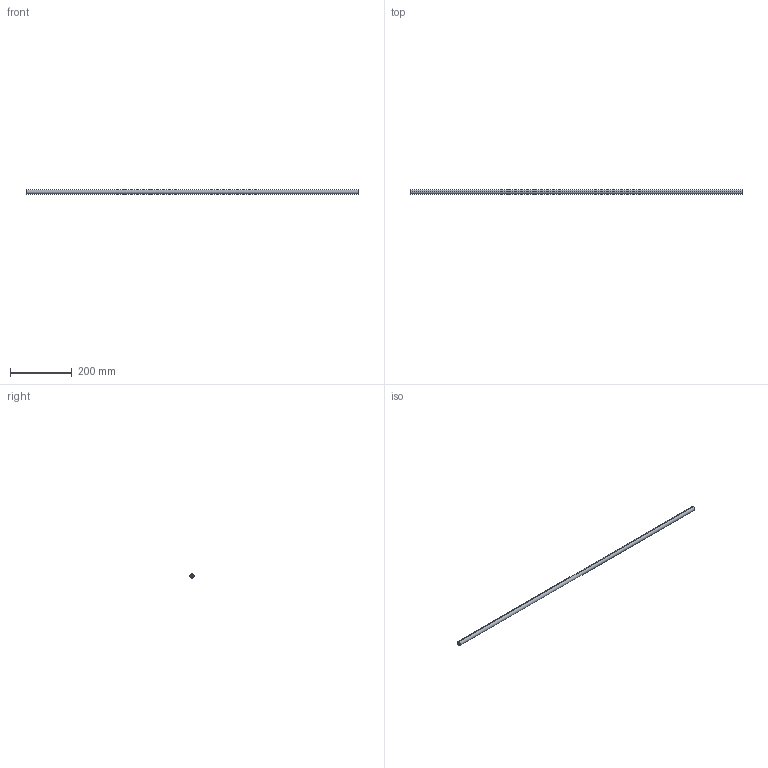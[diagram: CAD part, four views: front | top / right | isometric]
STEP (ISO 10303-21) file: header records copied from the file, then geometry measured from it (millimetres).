
FILE_DESCRIPTION (( 'STEP AP214' ), '1' );
FILE_NAME ('SyncronisationsstangeXP_KAB_1200_16.step', '2009-11-24T08:53:28', ( 'Grass' ), ( 'Grass GmbH' ), 'SwSTEP 2.0', 'SolidWorks 2009', '' );
FILE_SCHEMA (( 'AUTOMOTIVE_DESIGN' ));
Length unit declared in the file: millimetre
Products named in the file (1): SyncronisationsstangeXP_KAB_1200_16
Bounding box: 1071 x 14 x 14 mm (x, y, z)
Volume: 115806.9 mm3; surface area: 74611.3 mm2
Topology: 1 solids, 1 shells, 15 faces, 39 edges, 26 vertices
Faces by surface type: cylinder 11, plane 4
Entity records: 513 total; most frequent: DIRECTION 93, CARTESIAN_POINT 81, ORIENTED_EDGE 78, EDGE_CURVE 39, AXIS2_PLACEMENT_3D 38, VERTEX_POINT 26, CIRCLE 22, VECTOR 17
